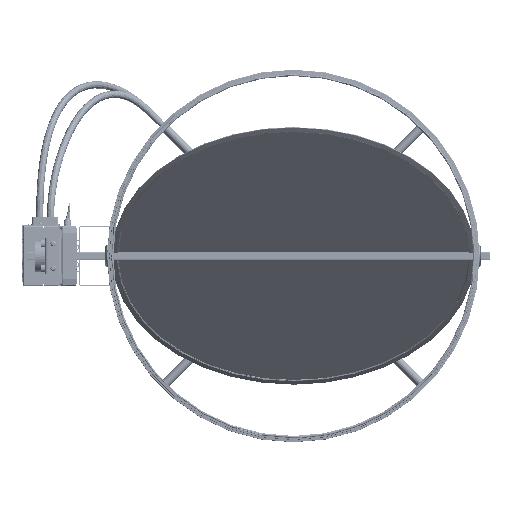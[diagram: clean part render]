
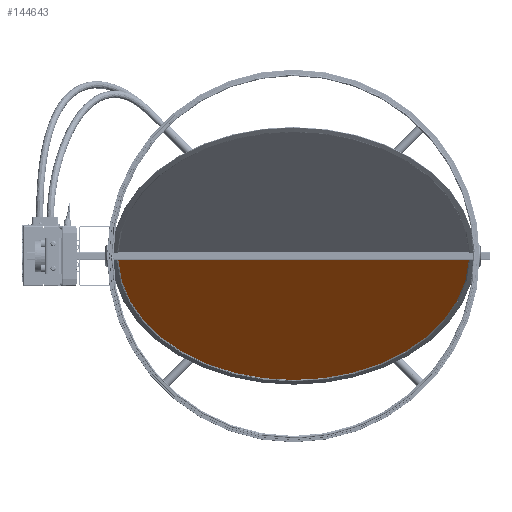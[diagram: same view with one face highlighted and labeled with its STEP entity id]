
A CAD part, left-side view. The second image highlights one B-rep face of the part: STEP entity #144643.
In plain terms, the highlighted planar face has unit normal (-0.707, 0, -0.707) as drawn and (0, 0, -1) by its records, which use the part's own axes.
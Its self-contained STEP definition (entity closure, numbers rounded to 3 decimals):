
#6140 = EDGE_CURVE ( 'NONE', #356154, #365083, #291806, .T. ) ;
#15070 = ORIENTED_EDGE ( 'NONE', *, *, #6140, .T. ) ;
#38060 = DIRECTION ( 'NONE',  ( 0., 0., 1. ) ) ;
#72184 = DIRECTION ( 'NONE',  ( 0., -1., 0. ) ) ;
#123664 = CARTESIAN_POINT ( 'NONE',  ( 6.071, 492.662, 0. ) ) ;
#129059 = CARTESIAN_POINT ( 'NONE',  ( 0., 300., 0. ) ) ;
#144643 = ADVANCED_FACE ( 'NONE', ( #223328 ), #163530, .F. ) ;
#163530 = PLANE ( 'NONE',  #165496 ) ;
#165496 = AXIS2_PLACEMENT_3D ( 'NONE', #219409, #38060, #249362 ) ;
#172743 = EDGE_CURVE ( 'NONE', #356154, #365083, #389483, .T. ) ;
#181026 = DIRECTION ( 'NONE',  ( 0., 0., -1. ) ) ;
#219409 = CARTESIAN_POINT ( 'NONE',  ( 6.071, 600., 0. ) ) ;
#223328 = FACE_OUTER_BOUND ( 'NONE', #391994, .T. ) ;
#249362 = DIRECTION ( 'NONE',  ( 1., 0., 0. ) ) ;
#275328 = VECTOR ( 'NONE', #72184, 1000. ) ;
#291806 = CIRCLE ( 'NONE', #342696, 192.758 ) ;
#302760 = DIRECTION ( 'NONE',  ( -1., 0., 0. ) ) ;
#312637 = CARTESIAN_POINT ( 'NONE',  ( 6.071, 107.338, 0. ) ) ;
#342696 = AXIS2_PLACEMENT_3D ( 'NONE', #129059, #181026, #302760 ) ;
#343894 = ORIENTED_EDGE ( 'NONE', *, *, #172743, .F. ) ;
#356154 = VERTEX_POINT ( 'NONE', #123664 ) ;
#365083 = VERTEX_POINT ( 'NONE', #312637 ) ;
#371272 = CARTESIAN_POINT ( 'NONE',  ( 6.071, 600., 0. ) ) ;
#389483 = LINE ( 'NONE', #371272, #275328 ) ;
#391994 = EDGE_LOOP ( 'NONE', ( #343894, #15070 ) ) ;
